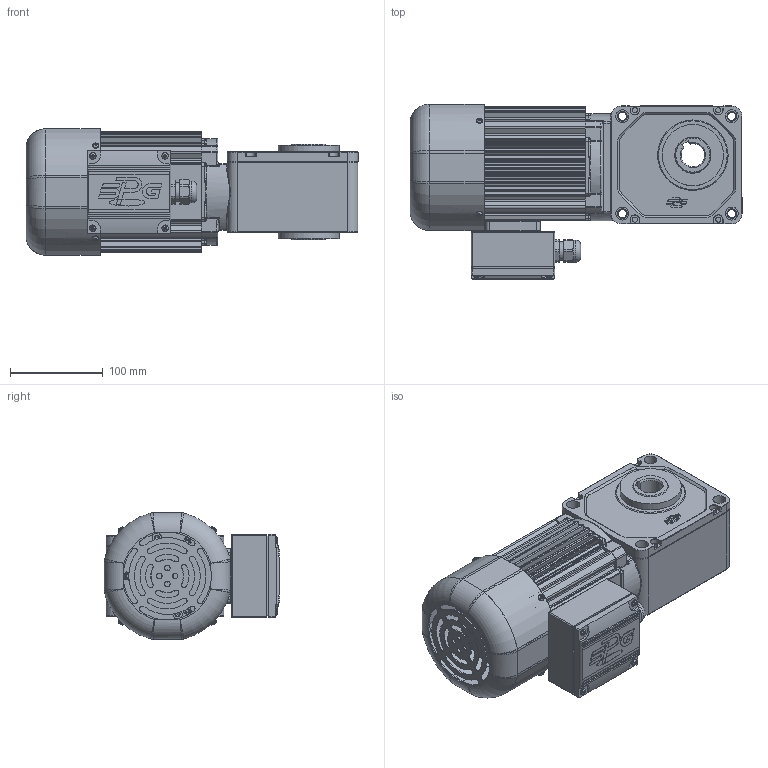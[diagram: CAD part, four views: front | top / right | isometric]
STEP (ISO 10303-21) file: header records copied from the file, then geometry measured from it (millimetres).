
FILE_DESCRIPTION(/* description */ (''),/* implementation_level */ '2;1');
FILE_NAME(/* name */ 'Z:\동력 3D 파일\PCH25_0.2kW_Brake_3D.stp',/* time_stamp */ '2021-11-09T09:35:37+09:00',/* author */ ('jaebok'),/* organization */ (''),/* preprocessor_version */ 'ST-DEVELOPER v18.1',/* originating_system */ 'Autodesk Inventor 2022',/* authorisation */ '');
FILE_SCHEMA (('AUTOMOTIVE_DESIGN { 1 0 10303 214 3 1 1 }'));
Products named in the file (1): 부품20
Bounding box: 358 x 189.7 x 136.4 mm (x, y, z)
Volume: 1883275.1 mm3; surface area: 554188.3 mm2
Topology: 2 solids, 26 shells, 2154 faces, 5487 edges, 3466 vertices
Faces by surface type: plane 994, cylinder 821, torus 115, bspline 113, cone 99, sphere 12
Full cylindrical faces by diameter (mm): 1.5 x2, 2 x4, 3 x4, 3.242 x4, 3.25 x1, 3.3 x8, 3.6 x4, 3.8 x3, 4 x20, 4.2 x9, 5 x18, 5.5 x4, 5.8 x2, 5.9 x3, 6 x13, 6.4 x1, 6.5 x6, 7 x12, 7.9 x6, 8 x4, 8.5 x1, 8.7 x1, 9 x4, 10 x1, 12.5 x1, 14 x8, 15 x1, 16 x1, 20 x2, 21 x1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
Entity records: 73633 total; most frequent: CARTESIAN_POINT 19024, DIRECTION 11372, ORIENTED_EDGE 10878, EDGE_CURVE 5439, AXIS2_PLACEMENT_3D 4291, VERTEX_POINT 3463, LINE 2790, VECTOR 2790
